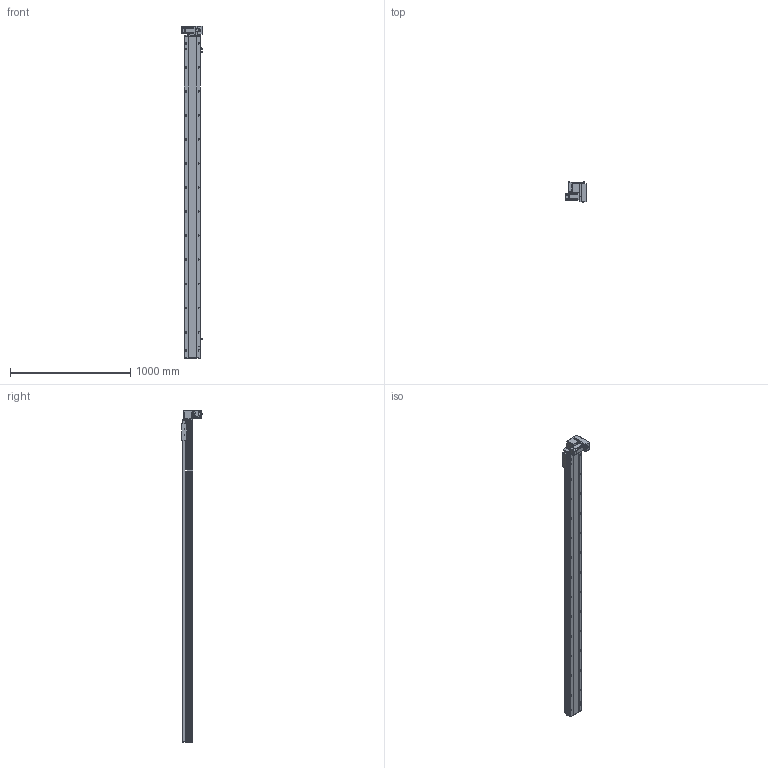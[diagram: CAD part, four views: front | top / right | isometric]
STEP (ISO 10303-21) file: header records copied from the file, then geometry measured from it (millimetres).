
FILE_DESCRIPTION (( 'STEP AP214' ), '1' );
FILE_NAME ('TPT14M-L40-2400-RD-T40-C4.STEP', '2023-03-06T07:39:31', ( '' ), ( '' ), 'SwSTEP 2.0', 'SolidWorks 2020', '' );
FILE_SCHEMA (( 'AUTOMOTIVE_DESIGN' ));
Length unit declared in the file: millimetre
Products named in the file (9): 葩璃 TPT14-L-007 々湍釱MZ-169x88^TPT14M-L40-RD-T40-C4_YTB14M; 葩璃 pm-t65-672^TPT14M-L40-RD-T40-C4; 葩璃 TPT14-L-002 奻裔MZ-135-05^TPT14M-L40-RD-T40-C4; 葩璃 TPT14-L-001 菁釱MZ-135-01^TPT14M-L40-RD-T40-C4; TPT14M-L40-2400-RD-T40-C4; 葩璃 TPT14-L-009 萇儂啣^TPT14M-L40-RD-T40-C4_400W; 葩璃 TPT14-L-005 賑釱MZ-135-07^TPT14M-L40-RD-T40-C4; 葩璃 侂狟400W^TPT14M-L40-RD-T40-C4; hexagon head bolts-full thread gb_GB_FASTENER_BOLT_STBAB A M5X16-N
Assembly tree (10 placements, depth 2):
  TPT14M-L40-2400-RD-T40-C4
    葩璃 TPT14-L-001 菁釱MZ-135-01^TPT14M-L40-RD-T40-C4
    葩璃 TPT14-L-002 奻裔MZ-135-05^TPT14M-L40-RD-T40-C4
    葩璃 TPT14-L-005 賑釱MZ-135-07^TPT14M-L40-RD-T40-C4
    葩璃 TPT14-L-007 々湍釱MZ-169x88^TPT14M-L40-RD-T40-C4_YTB14M
    葩璃 TPT14-L-009 萇儂啣^TPT14M-L40-RD-T40-C4_400W
    葩璃 pm-t65-672^TPT14M-L40-RD-T40-C4  x3
    葩璃 侂狟400W^TPT14M-L40-RD-T40-C4
    hexagon head bolts-full thread gb_GB_FASTENER_BOLT_STBAB A M5X16-N
Bounding box: 170.5 x 173.45 x 2760.5 mm (x, y, z)
Volume: 16716737 mm3; surface area: 2387925 mm2
Topology: 18 solids, 18 shells, 1566 faces, 4081 edges, 2592 vertices
Faces by surface type: plane 782, cylinder 588, cone 170, bspline 26
Entity records: 43060 total; most frequent: CARTESIAN_POINT 7838, DIRECTION 7164, ORIENTED_EDGE 6666, EDGE_CURVE 3333, AXIS2_PLACEMENT_3D 2574, VERTEX_POINT 2168, LINE 2016, VECTOR 2016
